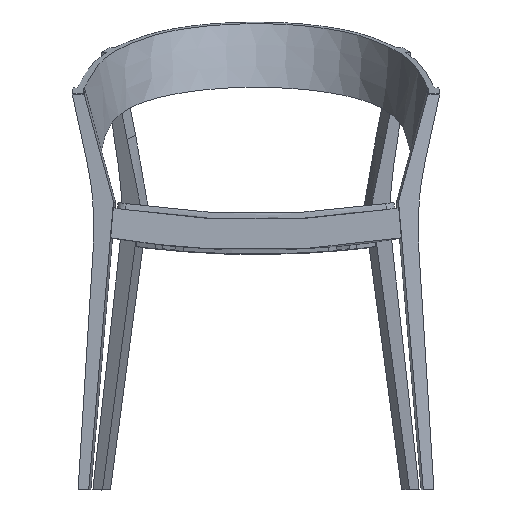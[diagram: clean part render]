
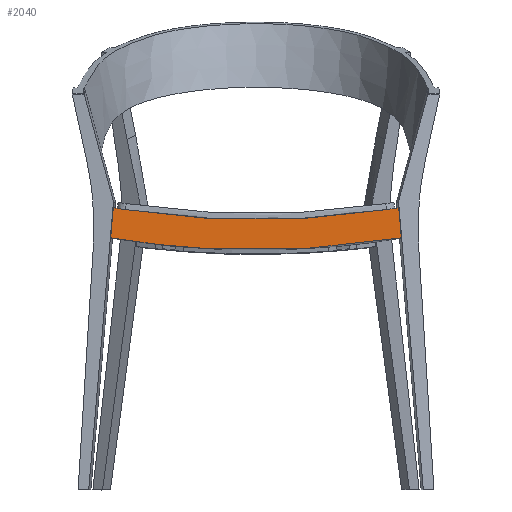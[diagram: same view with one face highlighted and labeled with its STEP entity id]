
A CAD part, front view. The second image highlights one B-rep face of the part: STEP entity #2040.
In plain terms, the highlighted planar face has unit normal (0, -1, 0.029).
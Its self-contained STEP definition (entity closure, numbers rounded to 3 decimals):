
#134=LINE('',#5613,#324);
#168=LINE('',#5700,#358);
#324=VECTOR('',#2448,10.);
#358=VECTOR('',#2534,10.);
#460=PLANE('',#2188);
#520=ELLIPSE('',#2148,1410.021,1410.);
#525=ELLIPSE('',#2155,1410.021,1410.);
#530=ELLIPSE('',#2161,1410.021,1410.);
#536=ELLIPSE('',#2187,1460.021,1460.);
#604=FACE_OUTER_BOUND('',#713,.T.);
#713=EDGE_LOOP('',(#1714,#1715,#1716,#1717,#1718,#1719));
#931=VERTEX_POINT('',#5080);
#932=VERTEX_POINT('',#5081);
#949=VERTEX_POINT('',#5589);
#952=VERTEX_POINT('',#5597);
#958=VERTEX_POINT('',#5612);
#979=VERTEX_POINT('',#5696);
#1159=EDGE_CURVE('',#931,#932,#520,.T.);
#1193=EDGE_CURVE('',#932,#949,#525,.T.);
#1198=EDGE_CURVE('',#952,#931,#530,.T.);
#1205=EDGE_CURVE('',#949,#958,#134,.T.);
#1247=EDGE_CURVE('',#958,#979,#536,.T.);
#1248=EDGE_CURVE('',#979,#952,#168,.T.);
#1714=ORIENTED_EDGE('',*,*,#1248,.F.);
#1715=ORIENTED_EDGE('',*,*,#1247,.F.);
#1716=ORIENTED_EDGE('',*,*,#1205,.F.);
#1717=ORIENTED_EDGE('',*,*,#1193,.F.);
#1718=ORIENTED_EDGE('',*,*,#1159,.F.);
#1719=ORIENTED_EDGE('',*,*,#1198,.F.);
#2040=ADVANCED_FACE('',(#604),#460,.F.);
#2148=AXIS2_PLACEMENT_3D('',#5082,#2400,#2401);
#2155=AXIS2_PLACEMENT_3D('',#5590,#2426,#2427);
#2161=AXIS2_PLACEMENT_3D('',#5599,#2438,#2439);
#2187=AXIS2_PLACEMENT_3D('',#5698,#2530,#2531);
#2188=AXIS2_PLACEMENT_3D('',#5699,#2532,#2533);
#2400=DIRECTION('center_axis',(0.,-1.,
0.029));
#2401=DIRECTION('ref_axis',(0.,-0.029,-1.));
#2426=DIRECTION('center_axis',(0.,-1.,
0.029));
#2427=DIRECTION('ref_axis',(0.,-0.029,-1.));
#2438=DIRECTION('center_axis',(0.,-1.,
0.029));
#2439=DIRECTION('ref_axis',(0.,-0.029,-1.));
#2448=DIRECTION('',(0.086,-0.029,-0.996));
#2530=DIRECTION('center_axis',(0.,1.,
-0.029));
#2531=DIRECTION('ref_axis',(0.,-0.029,-1.));
#2532=DIRECTION('center_axis',(0.,1.,
-0.029));
#2533=DIRECTION('ref_axis',(0.,0.029,1.));
#2534=DIRECTION('',(0.086,0.029,0.996));
#5080=CARTESIAN_POINT('',(-231.208,-205.948,468.543));
#5081=CARTESIAN_POINT('',(231.208,-205.948,468.543));
#5082=CARTESIAN_POINT('Origin',(0.,-165.299,
1858.884));
#5589=CARTESIAN_POINT('',(237.502,-205.917,469.604));
#5590=CARTESIAN_POINT('Origin',(0.,-165.299,
1858.884));
#5597=CARTESIAN_POINT('',(-237.502,-205.917,469.604));
#5599=CARTESIAN_POINT('Origin',(0.,-165.299,
1858.884));
#5612=CARTESIAN_POINT('',(241.809,-207.378,419.641));
#5613=CARTESIAN_POINT('',(244.169,-208.178,392.259));
#5696=CARTESIAN_POINT('',(-241.809,-207.378,419.641));
#5698=CARTESIAN_POINT('Origin',(0.,-165.299,
1858.884));
#5699=CARTESIAN_POINT('Origin',(0.,-208.184,
392.045));
#5700=CARTESIAN_POINT('',(-239.519,-206.601,446.205));
